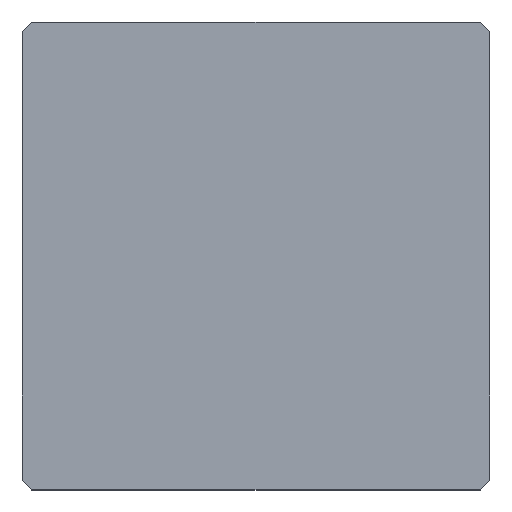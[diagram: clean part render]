
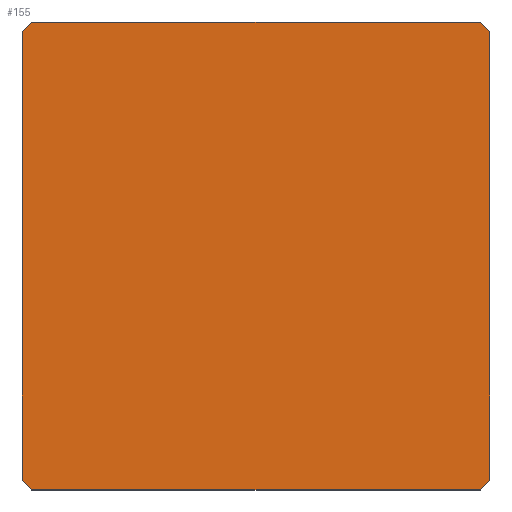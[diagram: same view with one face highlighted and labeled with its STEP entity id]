
A CAD part, top view. The second image highlights one B-rep face of the part: STEP entity #155.
In plain terms, the highlighted planar face has unit normal (0, 0, 1).
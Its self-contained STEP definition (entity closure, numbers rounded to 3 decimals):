
#39 = EDGE_CURVE('',#40,#42,#44,.T.);
#40 = VERTEX_POINT('',#41);
#41 = CARTESIAN_POINT('',(-10.,-9.6,12.25));
#42 = VERTEX_POINT('',#43);
#43 = CARTESIAN_POINT('',(-10.,9.6,12.25));
#44 = SURFACE_CURVE('',#45,(#49,#61),.PCURVE_S1.);
#45 = LINE('',#46,#47);
#46 = CARTESIAN_POINT('',(-10.,-10.,12.25));
#47 = VECTOR('',#48,1.);
#48 = DIRECTION('',(-0.,1.,0.));
#49 = PCURVE('',#50,#55);
#50 = PLANE('',#51);
#51 = AXIS2_PLACEMENT_3D('',#52,#53,#54);
#52 = CARTESIAN_POINT('',(-10.,-10.,0.));
#53 = DIRECTION('',(1.,0.,-0.));
#54 = DIRECTION('',(0.,0.,1.));
#55 = DEFINITIONAL_REPRESENTATION('',(#56),#60);
#56 = LINE('',#57,#58);
#57 = CARTESIAN_POINT('',(12.25,0.));
#58 = VECTOR('',#59,1.);
#59 = DIRECTION('',(0.,-1.));
#60 = ( GEOMETRIC_REPRESENTATION_CONTEXT(2) 
PARAMETRIC_REPRESENTATION_CONTEXT() REPRESENTATION_CONTEXT('2D SPACE',''
  ) );
#61 = PCURVE('',#62,#67);
#62 = PLANE('',#63);
#63 = AXIS2_PLACEMENT_3D('',#64,#65,#66);
#64 = CARTESIAN_POINT('',(-10.,-10.,12.25));
#65 = DIRECTION('',(0.,0.,1.));
#66 = DIRECTION('',(1.,0.,-0.));
#67 = DEFINITIONAL_REPRESENTATION('',(#68),#72);
#68 = LINE('',#69,#70);
#69 = CARTESIAN_POINT('',(0.,0.));
#70 = VECTOR('',#71,1.);
#71 = DIRECTION('',(0.,1.));
#72 = ( GEOMETRIC_REPRESENTATION_CONTEXT(2) 
PARAMETRIC_REPRESENTATION_CONTEXT() REPRESENTATION_CONTEXT('2D SPACE',''
  ) );
#90 = PLANE('',#91);
#91 = AXIS2_PLACEMENT_3D('',#92,#93,#94);
#92 = CARTESIAN_POINT('',(-9.8,-9.8,0.));
#93 = DIRECTION('',(-0.707,-0.707,0.));
#94 = DIRECTION('',(-0.,-0.,-1.));
#144 = PLANE('',#145);
#145 = AXIS2_PLACEMENT_3D('',#146,#147,#148);
#146 = CARTESIAN_POINT('',(-9.8,9.8,0.));
#147 = DIRECTION('',(0.707,-0.707,0.));
#148 = DIRECTION('',(-0.,-0.,-1.));
#155 = ADVANCED_FACE('',(#156),#62,.T.);
#156 = FACE_BOUND('',#157,.T.);
#157 = EDGE_LOOP('',(#158,#159,#182,#210,#238,#266,#294,#322));
#158 = ORIENTED_EDGE('',*,*,#39,.F.);
#159 = ORIENTED_EDGE('',*,*,#160,.T.);
#160 = EDGE_CURVE('',#40,#161,#163,.T.);
#161 = VERTEX_POINT('',#162);
#162 = CARTESIAN_POINT('',(-9.6,-10.,12.25));
#163 = SURFACE_CURVE('',#164,(#168,#175),.PCURVE_S1.);
#164 = LINE('',#165,#166);
#165 = CARTESIAN_POINT('',(-9.8,-9.8,12.25));
#166 = VECTOR('',#167,1.);
#167 = DIRECTION('',(0.707,-0.707,0.));
#168 = PCURVE('',#62,#169);
#169 = DEFINITIONAL_REPRESENTATION('',(#170),#174);
#170 = LINE('',#171,#172);
#171 = CARTESIAN_POINT('',(0.2,0.2));
#172 = VECTOR('',#173,1.);
#173 = DIRECTION('',(0.707,-0.707));
#174 = ( GEOMETRIC_REPRESENTATION_CONTEXT(2) 
PARAMETRIC_REPRESENTATION_CONTEXT() REPRESENTATION_CONTEXT('2D SPACE',''
  ) );
#175 = PCURVE('',#90,#176);
#176 = DEFINITIONAL_REPRESENTATION('',(#177),#181);
#177 = LINE('',#178,#179);
#178 = CARTESIAN_POINT('',(-12.25,0.));
#179 = VECTOR('',#180,1.);
#180 = DIRECTION('',(-0.,1.));
#181 = ( GEOMETRIC_REPRESENTATION_CONTEXT(2) 
PARAMETRIC_REPRESENTATION_CONTEXT() REPRESENTATION_CONTEXT('2D SPACE',''
  ) );
#182 = ORIENTED_EDGE('',*,*,#183,.T.);
#183 = EDGE_CURVE('',#161,#184,#186,.T.);
#184 = VERTEX_POINT('',#185);
#185 = CARTESIAN_POINT('',(9.6,-10.,12.25));
#186 = SURFACE_CURVE('',#187,(#191,#198),.PCURVE_S1.);
#187 = LINE('',#188,#189);
#188 = CARTESIAN_POINT('',(-10.,-10.,12.25));
#189 = VECTOR('',#190,1.);
#190 = DIRECTION('',(1.,0.,-0.));
#191 = PCURVE('',#62,#192);
#192 = DEFINITIONAL_REPRESENTATION('',(#193),#197);
#193 = LINE('',#194,#195);
#194 = CARTESIAN_POINT('',(0.,0.));
#195 = VECTOR('',#196,1.);
#196 = DIRECTION('',(1.,0.));
#197 = ( GEOMETRIC_REPRESENTATION_CONTEXT(2) 
PARAMETRIC_REPRESENTATION_CONTEXT() REPRESENTATION_CONTEXT('2D SPACE',''
  ) );
#198 = PCURVE('',#199,#204);
#199 = PLANE('',#200);
#200 = AXIS2_PLACEMENT_3D('',#201,#202,#203);
#201 = CARTESIAN_POINT('',(-10.,-10.,0.));
#202 = DIRECTION('',(-0.,1.,0.));
#203 = DIRECTION('',(0.,0.,1.));
#204 = DEFINITIONAL_REPRESENTATION('',(#205),#209);
#205 = LINE('',#206,#207);
#206 = CARTESIAN_POINT('',(12.25,0.));
#207 = VECTOR('',#208,1.);
#208 = DIRECTION('',(0.,1.));
#209 = ( GEOMETRIC_REPRESENTATION_CONTEXT(2) 
PARAMETRIC_REPRESENTATION_CONTEXT() REPRESENTATION_CONTEXT('2D SPACE',''
  ) );
#210 = ORIENTED_EDGE('',*,*,#211,.F.);
#211 = EDGE_CURVE('',#212,#184,#214,.T.);
#212 = VERTEX_POINT('',#213);
#213 = CARTESIAN_POINT('',(10.,-9.6,12.25));
#214 = SURFACE_CURVE('',#215,(#219,#226),.PCURVE_S1.);
#215 = LINE('',#216,#217);
#216 = CARTESIAN_POINT('',(4.8,-14.8,12.25));
#217 = VECTOR('',#218,1.);
#218 = DIRECTION('',(-0.707,-0.707,0.));
#219 = PCURVE('',#62,#220);
#220 = DEFINITIONAL_REPRESENTATION('',(#221),#225);
#221 = LINE('',#222,#223);
#222 = CARTESIAN_POINT('',(14.8,-4.8));
#223 = VECTOR('',#224,1.);
#224 = DIRECTION('',(-0.707,-0.707));
#225 = ( GEOMETRIC_REPRESENTATION_CONTEXT(2) 
PARAMETRIC_REPRESENTATION_CONTEXT() REPRESENTATION_CONTEXT('2D SPACE',''
  ) );
#226 = PCURVE('',#227,#232);
#227 = PLANE('',#228);
#228 = AXIS2_PLACEMENT_3D('',#229,#230,#231);
#229 = CARTESIAN_POINT('',(9.8,-9.8,0.));
#230 = DIRECTION('',(-0.707,0.707,0.));
#231 = DIRECTION('',(-0.,-0.,-1.));
#232 = DEFINITIONAL_REPRESENTATION('',(#233),#237);
#233 = LINE('',#234,#235);
#234 = CARTESIAN_POINT('',(-12.25,7.071));
#235 = VECTOR('',#236,1.);
#236 = DIRECTION('',(-0.,1.));
#237 = ( GEOMETRIC_REPRESENTATION_CONTEXT(2) 
PARAMETRIC_REPRESENTATION_CONTEXT() REPRESENTATION_CONTEXT('2D SPACE',''
  ) );
#238 = ORIENTED_EDGE('',*,*,#239,.T.);
#239 = EDGE_CURVE('',#212,#240,#242,.T.);
#240 = VERTEX_POINT('',#241);
#241 = CARTESIAN_POINT('',(10.,9.6,12.25));
#242 = SURFACE_CURVE('',#243,(#247,#254),.PCURVE_S1.);
#243 = LINE('',#244,#245);
#244 = CARTESIAN_POINT('',(10.,-10.,12.25));
#245 = VECTOR('',#246,1.);
#246 = DIRECTION('',(-0.,1.,0.));
#247 = PCURVE('',#62,#248);
#248 = DEFINITIONAL_REPRESENTATION('',(#249),#253);
#249 = LINE('',#250,#251);
#250 = CARTESIAN_POINT('',(20.,0.));
#251 = VECTOR('',#252,1.);
#252 = DIRECTION('',(0.,1.));
#253 = ( GEOMETRIC_REPRESENTATION_CONTEXT(2) 
PARAMETRIC_REPRESENTATION_CONTEXT() REPRESENTATION_CONTEXT('2D SPACE',''
  ) );
#254 = PCURVE('',#255,#260);
#255 = PLANE('',#256);
#256 = AXIS2_PLACEMENT_3D('',#257,#258,#259);
#257 = CARTESIAN_POINT('',(10.,-10.,0.));
#258 = DIRECTION('',(1.,0.,-0.));
#259 = DIRECTION('',(0.,0.,1.));
#260 = DEFINITIONAL_REPRESENTATION('',(#261),#265);
#261 = LINE('',#262,#263);
#262 = CARTESIAN_POINT('',(12.25,0.));
#263 = VECTOR('',#264,1.);
#264 = DIRECTION('',(0.,-1.));
#265 = ( GEOMETRIC_REPRESENTATION_CONTEXT(2) 
PARAMETRIC_REPRESENTATION_CONTEXT() REPRESENTATION_CONTEXT('2D SPACE',''
  ) );
#266 = ORIENTED_EDGE('',*,*,#267,.T.);
#267 = EDGE_CURVE('',#240,#268,#270,.T.);
#268 = VERTEX_POINT('',#269);
#269 = CARTESIAN_POINT('',(9.6,10.,12.25));
#270 = SURFACE_CURVE('',#271,(#275,#282),.PCURVE_S1.);
#271 = LINE('',#272,#273);
#272 = CARTESIAN_POINT('',(9.8,9.8,12.25));
#273 = VECTOR('',#274,1.);
#274 = DIRECTION('',(-0.707,0.707,0.));
#275 = PCURVE('',#62,#276);
#276 = DEFINITIONAL_REPRESENTATION('',(#277),#281);
#277 = LINE('',#278,#279);
#278 = CARTESIAN_POINT('',(19.8,19.8));
#279 = VECTOR('',#280,1.);
#280 = DIRECTION('',(-0.707,0.707));
#281 = ( GEOMETRIC_REPRESENTATION_CONTEXT(2) 
PARAMETRIC_REPRESENTATION_CONTEXT() REPRESENTATION_CONTEXT('2D SPACE',''
  ) );
#282 = PCURVE('',#283,#288);
#283 = PLANE('',#284);
#284 = AXIS2_PLACEMENT_3D('',#285,#286,#287);
#285 = CARTESIAN_POINT('',(9.8,9.8,0.));
#286 = DIRECTION('',(0.707,0.707,0.));
#287 = DIRECTION('',(-0.,0.,-1.));
#288 = DEFINITIONAL_REPRESENTATION('',(#289),#293);
#289 = LINE('',#290,#291);
#290 = CARTESIAN_POINT('',(-12.25,0.));
#291 = VECTOR('',#292,1.);
#292 = DIRECTION('',(-0.,1.));
#293 = ( GEOMETRIC_REPRESENTATION_CONTEXT(2) 
PARAMETRIC_REPRESENTATION_CONTEXT() REPRESENTATION_CONTEXT('2D SPACE',''
  ) );
#294 = ORIENTED_EDGE('',*,*,#295,.F.);
#295 = EDGE_CURVE('',#296,#268,#298,.T.);
#296 = VERTEX_POINT('',#297);
#297 = CARTESIAN_POINT('',(-9.6,10.,12.25));
#298 = SURFACE_CURVE('',#299,(#303,#310),.PCURVE_S1.);
#299 = LINE('',#300,#301);
#300 = CARTESIAN_POINT('',(-10.,10.,12.25));
#301 = VECTOR('',#302,1.);
#302 = DIRECTION('',(1.,0.,-0.));
#303 = PCURVE('',#62,#304);
#304 = DEFINITIONAL_REPRESENTATION('',(#305),#309);
#305 = LINE('',#306,#307);
#306 = CARTESIAN_POINT('',(0.,20.));
#307 = VECTOR('',#308,1.);
#308 = DIRECTION('',(1.,0.));
#309 = ( GEOMETRIC_REPRESENTATION_CONTEXT(2) 
PARAMETRIC_REPRESENTATION_CONTEXT() REPRESENTATION_CONTEXT('2D SPACE',''
  ) );
#310 = PCURVE('',#311,#316);
#311 = PLANE('',#312);
#312 = AXIS2_PLACEMENT_3D('',#313,#314,#315);
#313 = CARTESIAN_POINT('',(-10.,10.,0.));
#314 = DIRECTION('',(-0.,1.,0.));
#315 = DIRECTION('',(0.,0.,1.));
#316 = DEFINITIONAL_REPRESENTATION('',(#317),#321);
#317 = LINE('',#318,#319);
#318 = CARTESIAN_POINT('',(12.25,0.));
#319 = VECTOR('',#320,1.);
#320 = DIRECTION('',(0.,1.));
#321 = ( GEOMETRIC_REPRESENTATION_CONTEXT(2) 
PARAMETRIC_REPRESENTATION_CONTEXT() REPRESENTATION_CONTEXT('2D SPACE',''
  ) );
#322 = ORIENTED_EDGE('',*,*,#323,.F.);
#323 = EDGE_CURVE('',#42,#296,#324,.T.);
#324 = SURFACE_CURVE('',#325,(#329,#336),.PCURVE_S1.);
#325 = LINE('',#326,#327);
#326 = CARTESIAN_POINT('',(-14.8,4.8,12.25));
#327 = VECTOR('',#328,1.);
#328 = DIRECTION('',(0.707,0.707,-0.));
#329 = PCURVE('',#62,#330);
#330 = DEFINITIONAL_REPRESENTATION('',(#331),#335);
#331 = LINE('',#332,#333);
#332 = CARTESIAN_POINT('',(-4.8,14.8));
#333 = VECTOR('',#334,1.);
#334 = DIRECTION('',(0.707,0.707));
#335 = ( GEOMETRIC_REPRESENTATION_CONTEXT(2) 
PARAMETRIC_REPRESENTATION_CONTEXT() REPRESENTATION_CONTEXT('2D SPACE',''
  ) );
#336 = PCURVE('',#144,#337);
#337 = DEFINITIONAL_REPRESENTATION('',(#338),#342);
#338 = LINE('',#339,#340);
#339 = CARTESIAN_POINT('',(-12.25,-7.071));
#340 = VECTOR('',#341,1.);
#341 = DIRECTION('',(-0.,1.));
#342 = ( GEOMETRIC_REPRESENTATION_CONTEXT(2) 
PARAMETRIC_REPRESENTATION_CONTEXT() REPRESENTATION_CONTEXT('2D SPACE',''
  ) );
